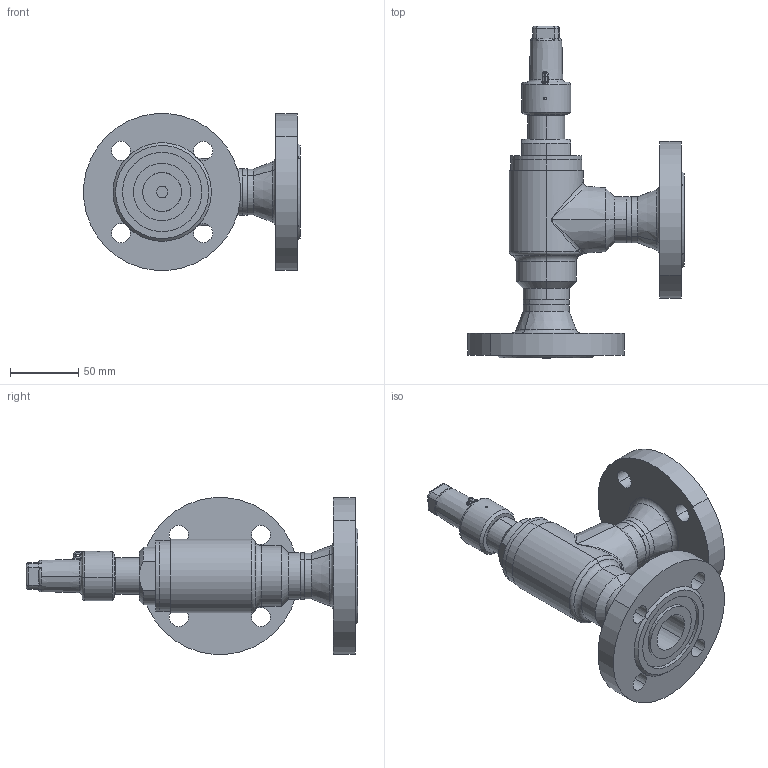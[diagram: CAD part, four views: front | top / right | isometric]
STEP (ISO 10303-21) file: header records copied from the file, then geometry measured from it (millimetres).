
FILE_DESCRIPTION (( 'STEP AP214' ), '1' );
FILE_NAME ('UVAB 41420c12-DN25_DIN-FL .STEP', '2010-09-13T06:06:54', ( 'Eckhard Grams' ), ( 'AWP Kälte Klima Armaturen GmbH' ), 'SwSTEP 2.0', 'SolidWorks 2002296', '' );
FILE_SCHEMA (( 'AUTOMOTIVE_DESIGN' ));
Length unit declared in the file: millimetre
Products named in the file (8): UVAB 41420c12-DN25_DIN-FL  ; Deckel 44353-11-DN20-32_PS40_Standard; Kappe 36302-10_DN6-15 (M27x1)_Standard; Geh,kpl 41220E12-DN25_DIN-FL_PS40_Standard; Gehäuse41200E12-DN25_PS40_R1_Standard; bead Geh.kpl 41220-12-2_Standard; bead Geh.kpl 41220-12-1_Standard; Flansch-DIN2635-Nut_PS40_DIN-Flansch-DN025_PS40-Nut
Assembly tree (8 placements, depth 3):
  UVAB 41420c12-DN25_DIN-FL  
    Deckel 44353-11-DN20-32_PS40_Standard
    Kappe 36302-10_DN6-15 (M27x1)_Standard
    Geh,kpl 41220E12-DN25_DIN-FL_PS40_Standard
      Gehäuse41200E12-DN25_PS40_R1_Standard
      bead Geh.kpl 41220-12-1_Standard
      Flansch-DIN2635-Nut_PS40_DIN-Flansch-DN025_PS40-Nut  x2
      bead Geh.kpl 41220-12-2_Standard
Bounding box: 158.28 x 242.75 x 114.56 mm (x, y, z)
Volume: 509881.8 mm3; surface area: 128452.6 mm2
Topology: 7 solids, 7 shells, 273 faces, 634 edges, 384 vertices
Faces by surface type: cylinder 113, cone 54, plane 51, torus 32, bspline 23
Entity records: 25777 total; most frequent: CARTESIAN_POINT 19474, DIRECTION 1183, ORIENTED_EDGE 1104, EDGE_CURVE 552, AXIS2_PLACEMENT_3D 508, VERTEX_POINT 332, CIRCLE 278, EDGE_LOOP 274
